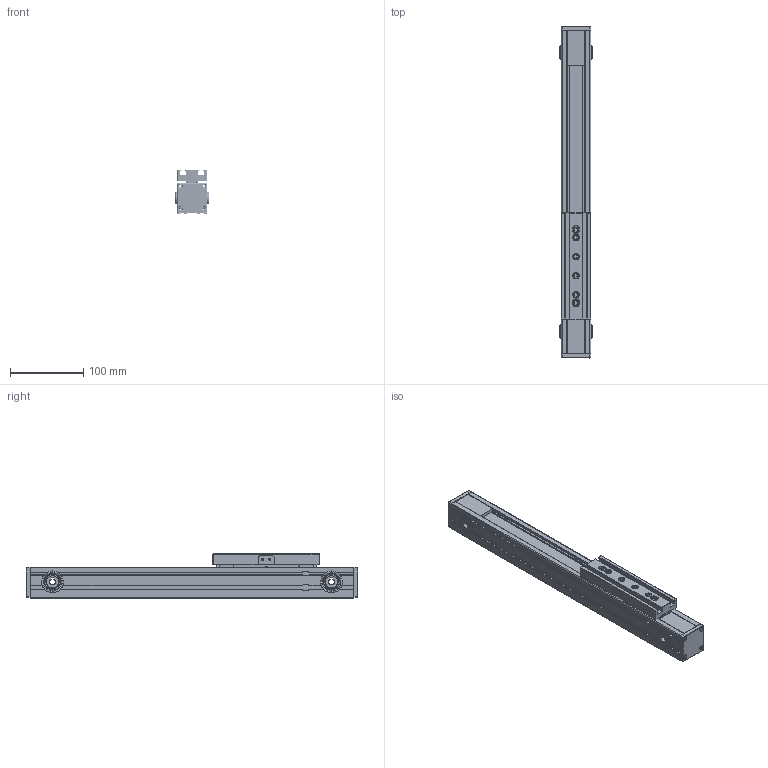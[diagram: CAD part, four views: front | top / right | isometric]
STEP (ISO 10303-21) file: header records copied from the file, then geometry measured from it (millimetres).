
FILE_DESCRIPTION (( 'STEP AP214' ), '1' );
FILE_NAME ('TKR40-200A1-F0-R3-高速内滚轮直线模组.step', '2025-10-10T03:21:49', ( '' ), ( '' ), 'SwSTEP 2.0', 'SolidWorks 2024', '' );
FILE_SCHEMA (( 'AUTOMOTIVE_DESIGN' ));
Length unit declared in the file: millimetre
Products named in the file (3): TKR40-R3-02; TKR40-200A1-F0-R3-高速内滚轮直线模组; TKR40-200-R3-01
Assembly tree (2 placements, depth 2):
  TKR40-200A1-F0-R3-高速内滚轮直线模组
    TKR40-200-R3-01
    TKR40-R3-02
Bounding box: 45 x 452 x 60 mm (x, y, z)
Volume: 382742.7 mm3; surface area: 279897.8 mm2
Topology: 16 solids, 56 shells, 2702 faces, 7175 edges, 4621 vertices
Faces by surface type: cylinder 1388, plane 792, torus 216, cone 186, bspline 96, sphere 24
Entity records: 146594 total; most frequent: CARTESIAN_POINT 52029, ORIENTED_EDGE 14178, DIRECTION 13212, EDGE_CURVE 7139, AXIS2_PLACEMENT_3D 5104, VERTEX_POINT 4625, LINE 3004, VECTOR 3004
